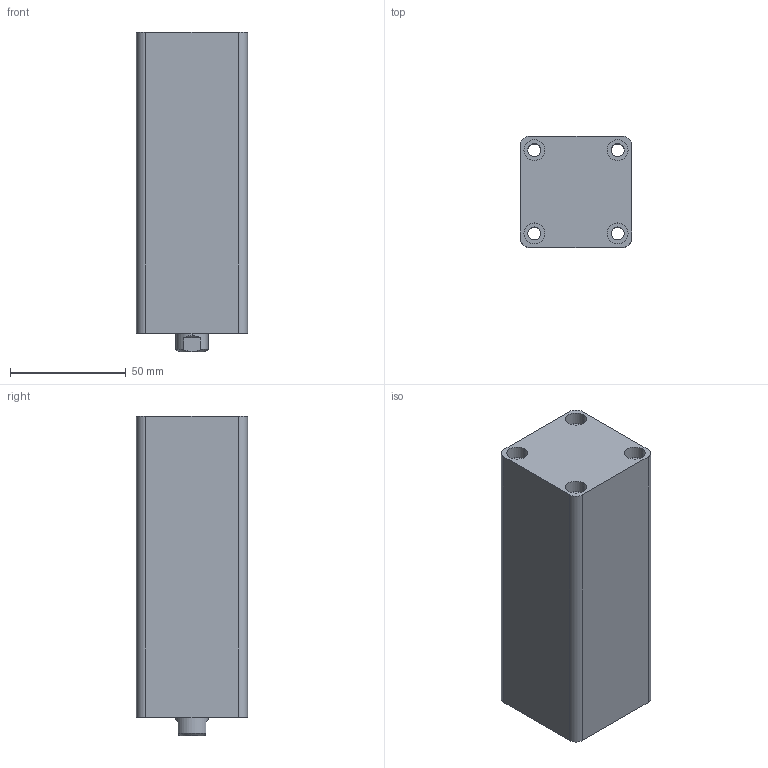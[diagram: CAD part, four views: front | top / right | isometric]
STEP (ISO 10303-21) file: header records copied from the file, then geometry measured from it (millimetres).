
FILE_DESCRIPTION (( 'STEP AP203' ), '1' );
FILE_NAME ('HTB-SD25-85N.STEP', '2019-10-07T06:20:19', ( '微软用户' ), ( '微软中国' ), 'SwSTEP 2.0', 'SolidWorks 2012', '' );
FILE_SCHEMA (( 'CONFIG_CONTROL_DESIGN' ));
Length unit declared in the file: millimetre
Products named in the file (3): HTB-SD25-85N; HTB-SD25-85掛极; HTB-SD25-85N活塞杆
Assembly tree (2 placements, depth 2):
  HTB-SD25-85N
    HTB-SD25-85掛极
    HTB-SD25-85N活塞杆
Bounding box: 48 x 48 x 138 mm (x, y, z)
Volume: 253822.9 mm3; surface area: 55581 mm2
Topology: 2 solids, 2 shells, 83 faces, 182 edges, 117 vertices
Faces by surface type: cylinder 42, plane 27, cone 8, torus 6
Entity records: 2653 total; most frequent: DIRECTION 454, CARTESIAN_POINT 429, ORIENTED_EDGE 360, AXIS2_PLACEMENT_3D 194, EDGE_CURVE 180, VERTEX_POINT 117, EDGE_LOOP 107, CIRCLE 106
